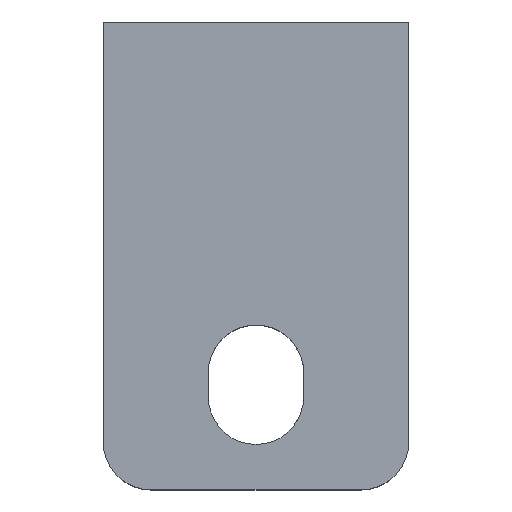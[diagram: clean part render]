
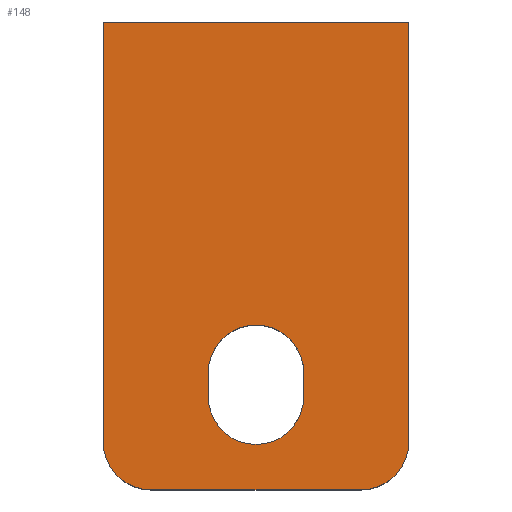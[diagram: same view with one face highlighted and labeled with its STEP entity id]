
A CAD part, top view. The second image highlights one B-rep face of the part: STEP entity #148.
In plain terms, the highlighted planar face has unit normal (0, 0, 1).
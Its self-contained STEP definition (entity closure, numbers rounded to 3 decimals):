
#148=ADVANCED_FACE('',(#188,#189),#176,.T.);
#176=PLANE('',#598);
#188=FACE_BOUND('',#215,.T.);
#189=FACE_BOUND('',#216,.T.);
#215=EDGE_LOOP('',(#255,#256,#257,#258,#259,#260));
#216=EDGE_LOOP('',(#261,#262,#263,#264,#265,#266,#267,#268));
#255=ORIENTED_EDGE('',*,*,#428,.F.);
#256=ORIENTED_EDGE('',*,*,#429,.T.);
#257=ORIENTED_EDGE('',*,*,#430,.F.);
#258=ORIENTED_EDGE('',*,*,#431,.T.);
#259=ORIENTED_EDGE('',*,*,#432,.F.);
#260=ORIENTED_EDGE('',*,*,#433,.F.);
#261=ORIENTED_EDGE('',*,*,#434,.T.);
#262=ORIENTED_EDGE('',*,*,#435,.T.);
#263=ORIENTED_EDGE('',*,*,#436,.T.);
#264=ORIENTED_EDGE('',*,*,#437,.T.);
#265=ORIENTED_EDGE('',*,*,#438,.T.);
#266=ORIENTED_EDGE('',*,*,#439,.T.);
#267=ORIENTED_EDGE('',*,*,#440,.T.);
#268=ORIENTED_EDGE('',*,*,#441,.T.);
#381=VERTEX_POINT('',#789);
#382=VERTEX_POINT('',#790);
#383=VERTEX_POINT('',#792);
#384=VERTEX_POINT('',#794);
#385=VERTEX_POINT('',#796);
#386=VERTEX_POINT('',#798);
#387=VERTEX_POINT('',#801);
#388=VERTEX_POINT('',#802);
#389=VERTEX_POINT('',#804);
#390=VERTEX_POINT('',#806);
#391=VERTEX_POINT('',#808);
#392=VERTEX_POINT('',#810);
#393=VERTEX_POINT('',#812);
#394=VERTEX_POINT('',#814);
#428=EDGE_CURVE('',#381,#382,#491,.T.);
#429=EDGE_CURVE('',#381,#383,#565,.T.);
#430=EDGE_CURVE('',#384,#383,#492,.T.);
#431=EDGE_CURVE('',#384,#385,#566,.T.);
#432=EDGE_CURVE('',#386,#385,#493,.T.);
#433=EDGE_CURVE('',#382,#386,#494,.T.);
#434=EDGE_CURVE('',#387,#388,#567,.T.);
#435=EDGE_CURVE('',#388,#389,#495,.T.);
#436=EDGE_CURVE('',#389,#390,#568,.T.);
#437=EDGE_CURVE('',#390,#391,#496,.T.);
#438=EDGE_CURVE('',#391,#392,#569,.T.);
#439=EDGE_CURVE('',#392,#393,#497,.T.);
#440=EDGE_CURVE('',#393,#394,#570,.T.);
#441=EDGE_CURVE('',#394,#387,#498,.T.);
#491=LINE('',#788,#525);
#492=LINE('',#793,#526);
#493=LINE('',#797,#527);
#494=LINE('',#799,#528);
#495=LINE('',#803,#529);
#496=LINE('',#807,#530);
#497=LINE('',#811,#531);
#498=LINE('',#815,#532);
#525=VECTOR('',#653,1.);
#526=VECTOR('',#656,1.);
#527=VECTOR('',#659,1.);
#528=VECTOR('',#660,1.);
#529=VECTOR('',#663,1.);
#530=VECTOR('',#666,1.);
#531=VECTOR('',#669,1.);
#532=VECTOR('',#672,1.);
#565=CIRCLE('',#592,5.);
#566=CIRCLE('',#593,5.);
#567=CIRCLE('',#594,5.);
#568=CIRCLE('',#595,5.025);
#569=CIRCLE('',#596,5.);
#570=CIRCLE('',#597,5.025);
#592=AXIS2_PLACEMENT_3D('',#791,#654,#655);
#593=AXIS2_PLACEMENT_3D('',#795,#657,#658);
#594=AXIS2_PLACEMENT_3D('',#800,#661,#662);
#595=AXIS2_PLACEMENT_3D('',#805,#664,#665);
#596=AXIS2_PLACEMENT_3D('',#809,#667,#668);
#597=AXIS2_PLACEMENT_3D('',#813,#670,#671);
#598=AXIS2_PLACEMENT_3D('',#816,#673,#674);
#653=DIRECTION('',(0.,1.,0.));
#654=DIRECTION('',(0.,0.,1.));
#655=DIRECTION('',(1.,0.,0.));
#656=DIRECTION('',(-1.,0.,0.));
#657=DIRECTION('',(0.,0.,1.));
#658=DIRECTION('',(1.,0.,0.));
#659=DIRECTION('',(0.,-1.,0.));
#660=DIRECTION('',(1.,0.,0.));
#661=DIRECTION('',(0.,0.,-1.));
#662=DIRECTION('',(1.,0.,0.));
#663=DIRECTION('',(0.,1.,0.));
#664=DIRECTION('',(0.,0.,-1.));
#665=DIRECTION('',(-1.,0.,0.));
#666=DIRECTION('',(0.,1.,0.));
#667=DIRECTION('',(0.,0.,-1.));
#668=DIRECTION('',(1.,0.,0.));
#669=DIRECTION('',(0.,-1.,0.));
#670=DIRECTION('',(0.,0.,-1.));
#671=DIRECTION('',(-1.,0.,0.));
#672=DIRECTION('',(0.,-1.,0.));
#673=DIRECTION('',(0.,0.,1.));
#674=DIRECTION('',(1.,0.,0.));
#788=CARTESIAN_POINT('',(0.,24.5,15.));
#789=CARTESIAN_POINT('',(0.,5.,15.));
#790=CARTESIAN_POINT('',(0.,49.,15.));
#791=CARTESIAN_POINT('',(5.,5.,15.));
#792=CARTESIAN_POINT('',(5.,0.,15.));
#793=CARTESIAN_POINT('',(16.,0.,15.));
#794=CARTESIAN_POINT('',(27.,0.,15.));
#795=CARTESIAN_POINT('',(27.,5.,15.));
#796=CARTESIAN_POINT('',(32.,5.,15.));
#797=CARTESIAN_POINT('',(32.,24.5,15.));
#798=CARTESIAN_POINT('',(32.,49.,15.));
#799=CARTESIAN_POINT('',(16.,49.,15.));
#800=CARTESIAN_POINT('',(16.,9.75,15.));
#801=CARTESIAN_POINT('',(21.,9.75,15.));
#802=CARTESIAN_POINT('',(11.,9.75,15.));
#803=CARTESIAN_POINT('',(11.,9.75,15.));
#804=CARTESIAN_POINT('',(11.,10.499,15.));
#805=CARTESIAN_POINT('',(16.,11.,15.));
#806=CARTESIAN_POINT('',(11.,11.501,15.));
#807=CARTESIAN_POINT('',(11.,9.75,15.));
#808=CARTESIAN_POINT('',(11.,12.25,15.));
#809=CARTESIAN_POINT('',(16.,12.25,15.));
#810=CARTESIAN_POINT('',(21.,12.25,15.));
#811=CARTESIAN_POINT('',(21.,12.25,15.));
#812=CARTESIAN_POINT('',(21.,11.501,15.));
#813=CARTESIAN_POINT('',(16.,11.,15.));
#814=CARTESIAN_POINT('',(21.,10.499,15.));
#815=CARTESIAN_POINT('',(21.,12.25,15.));
#816=CARTESIAN_POINT('',(16.,24.5,15.));
